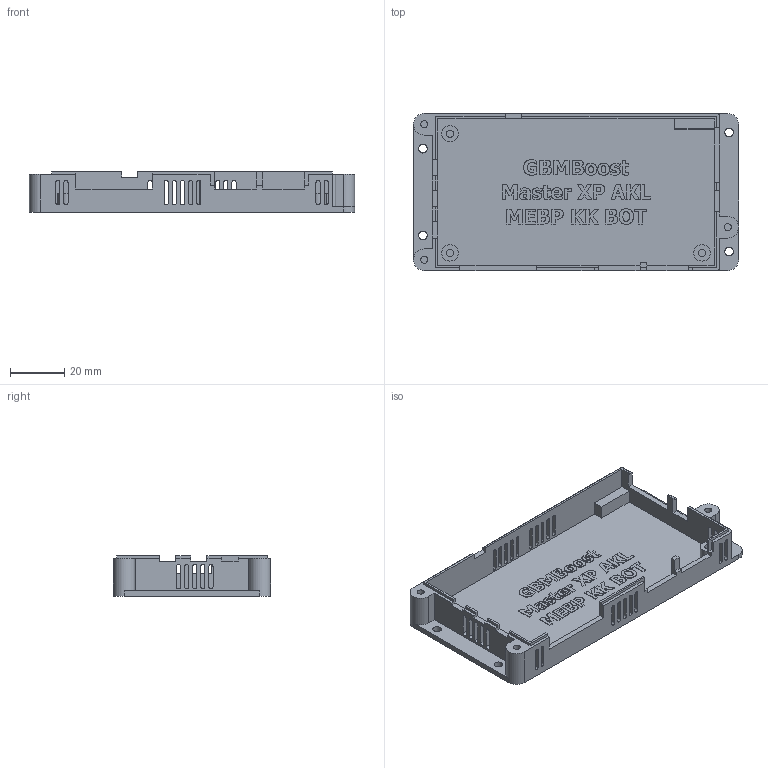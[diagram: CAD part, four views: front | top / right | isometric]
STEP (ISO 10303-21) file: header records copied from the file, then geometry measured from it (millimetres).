
FILE_DESCRIPTION(/* description */ (''),/* implementation_level */ '2;1');
FILE_NAME(/* name */ 'E:\Inventor-Dateien\GBMBoost_Master_XP_AKL_MEBP_KK\GBMBoost_Master_XP_AKL_MEBP_KK_BOT.stp',/* time_stamp */ '2022-02-07T13:16:39+01:00',/* author */ ('Hans'),/* organization */ (''),/* preprocessor_version */ 'ST-DEVELOPER v16.5',/* originating_system */ 'Autodesk Inventor 2017',/* authorisation */ '');
FILE_SCHEMA (('AUTOMOTIVE_DESIGN { 1 0 10303 214 3 1 1 }'));
Length unit declared in the file: millimetre
Products named in the file (1): GBMBoost_Master_XP_AKL_MEBP_BOT
Bounding box: 120 x 58 x 15 mm (x, y, z)
Volume: 22270.9 mm3; surface area: 23410 mm2
Topology: 1 solids, 1 shells, 705 faces, 1949 edges, 1299 vertices
Faces by surface type: plane 434, bspline 197, cylinder 74
Full cylindrical faces by diameter (mm): 2.6 x6, 3.2 x4, 6 x3
Entity records: 23411 total; most frequent: CARTESIAN_POINT 6502, ORIENTED_EDGE 3872, DIRECTION 2711, EDGE_CURVE 1936, LINE 1391, VECTOR 1391, VERTEX_POINT 1299, EDGE_LOOP 833
